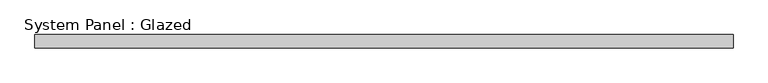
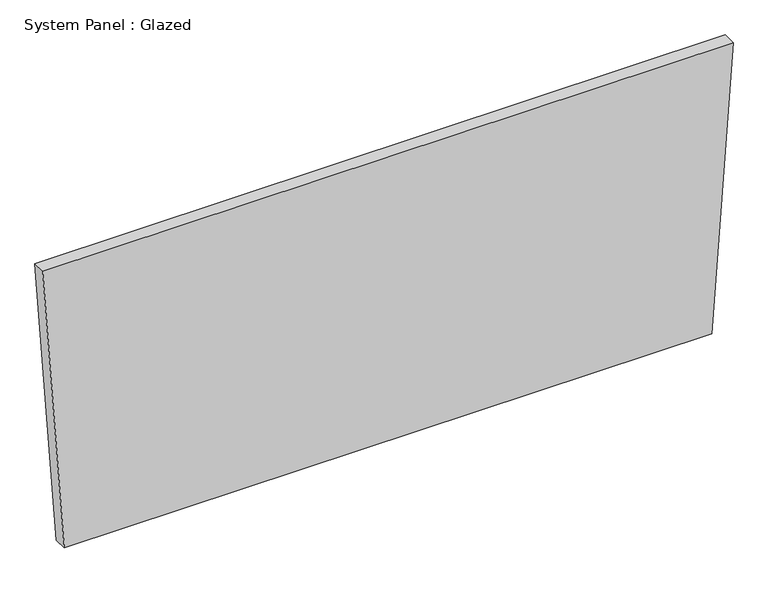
"""IFC4 building model written with IfcOpenShell, lengths in millimetres: plate geometry, System Panel : Glazed."""

from ifc_helpers import new_model, si_unit, frame, origin, place, context, project, spatial, polyline, outline, extrude, source, transform, mapped, element, save


def system_panel_glazed_acb349bd(model_context):
    return source(origin(), model_context, "Body", "SweptSolid", [
        extrude(outline(polyline([(0.0, -614.7988464), (0.0, 614.7988464), (569.9295835, 655.7872981), (569.9295835, -655.7872981), (0.0, -614.7988464)])), frame((0.0, 19.05, 0.0), z_axis=(0.0, 1.0, 0.0), x_axis=(0.0, 0.0, 1.0)), (0.0, 0.0, 1.0), 25.4),
    ])


if __name__ == "__main__":
    model = new_model("IFC4")
    model_context = context("Model", 3, world=origin())
    ifc_project = project(units=[si_unit("LENGTHUNIT", "METRE", prefix="MILLI")], contexts=[model_context])
    site = spatial("IfcSite", under=ifc_project)
    building = spatial("IfcBuilding", under=site)
    placement = place(None, origin())
    system_panel_glazed_shape = system_panel_glazed_acb349bd(model_context)
    element("IfcPlate", 1, ObjectType="System Panel : Glazed", at=placement, inside=building, context=model_context, shape_type="MappedRepresentation", body=[
        mapped(system_panel_glazed_shape, transform((0.0, 0.0, 0.0), x_axis=(1.0, 0.0, 0.0), y_axis=(0.0, 1.0, 0.0), z_axis=(0.0, 0.0, 1.0))),
    ])
    save(model, "model.ifc")
